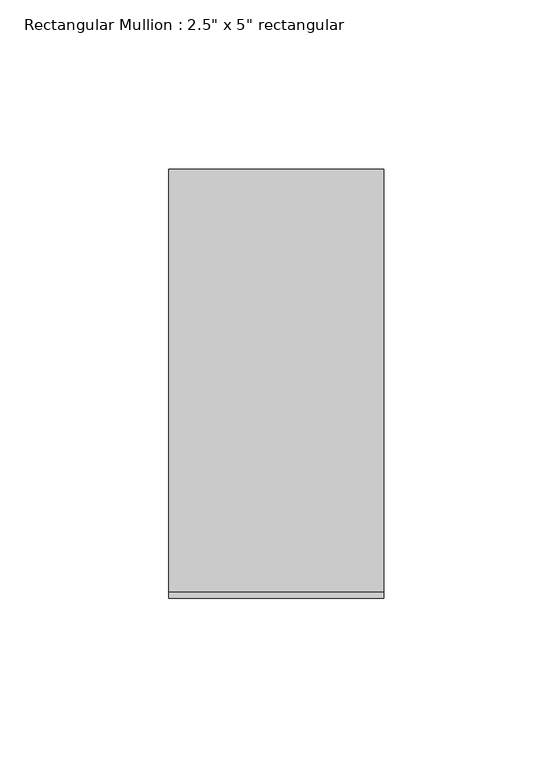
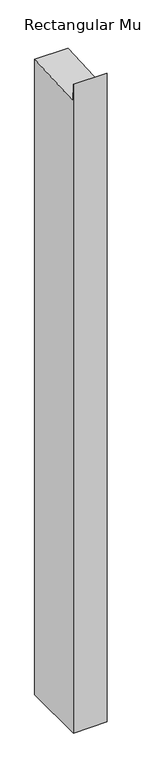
"""IFC4 building model written with IfcOpenShell, lengths in millimetres: member geometry."""

from ifc_helpers import new_model, si_unit, frame, origin, place, context, project, spatial, polyline, outline, extrude, source, transform, mapped, element, save


def member_6713ba75(model_context):
    return source(origin(), model_context, "Body", "SweptSolid", [
        extrude(outline(polyline([(-63.5, 29.9084196), (-61.5532406, -3.6267023), (63.5, 3.6328081), (63.5, -1268.3434676), (-63.5, -1268.3434676), (-63.5, 29.9084196)])), frame((-63.5, 0.0, 0.0), z_axis=(1.0, 0.0, 0.0), x_axis=(0.0, 1.0, 0.0)), (0.0, 0.0, 1.0), 63.5),
    ])


if __name__ == "__main__":
    model = new_model("IFC4")
    model_context = context("Model", 3, world=origin())
    ifc_project = project(units=[si_unit("LENGTHUNIT", "METRE", prefix="MILLI")], contexts=[model_context])
    site = spatial("IfcSite", under=ifc_project)
    building = spatial("IfcBuilding", under=site)
    placement = place(None, origin())
    member_shape = member_6713ba75(model_context)
    element("IfcMember", 1, ObjectType="Rectangular Mullion : 2.5\" x 5\" rectangular", at=placement, inside=building, context=model_context, shape_type="MappedRepresentation", body=[
        mapped(member_shape, transform((0.0, 0.0, 0.0), x_axis=(1.0, 0.0, 0.0), y_axis=(0.0, 1.0, 0.0), z_axis=(0.0, 0.0, 1.0))),
    ])
    save(model, "model.ifc")
